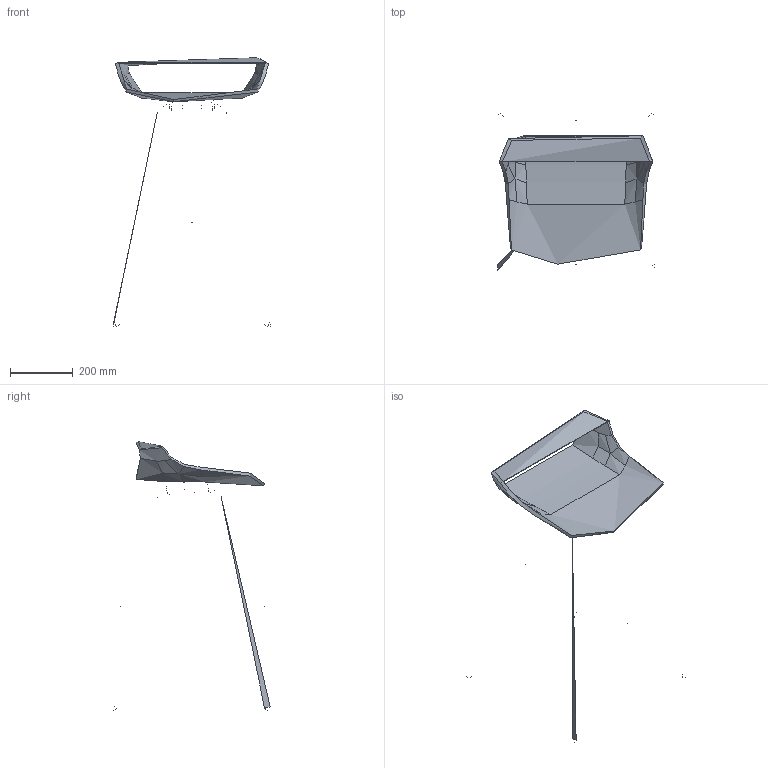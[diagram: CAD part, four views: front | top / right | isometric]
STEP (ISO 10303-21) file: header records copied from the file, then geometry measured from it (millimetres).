
FILE_DESCRIPTION(/* description */ (''),/* implementation_level */ '2;1');
FILE_NAME(/* name */ 'Lotus bar',/* time_stamp */ '2024-02-28T20:22:26+01:00',/* author */ (''),/* organization */ (''),/* preprocessor_version */ 'ST-DEVELOPER v16.5',/* originating_system */ 'Rhino 7.35',/* authorisation */ '');
FILE_SCHEMA (('CONFIG_CONTROL_DESIGN'));
Length unit declared in the file: millimetre
Products named in the file (1): Document
Bounding box: 502.45 x 498.55 x 856.45 mm (x, y, z)
Volume: 3233929.7 mm3; surface area: 854666.9 mm2
Topology: 2 solids, 18 shells, 80 faces, 208 edges, 131 vertices
Faces by surface type: bspline 60, cylinder 20
Full cylindrical faces by diameter (mm): 14 x4, 16 x4, 18 x12
Entity records: 13205 total; most frequent: CARTESIAN_POINT 11906, ORIENTED_EDGE 369, EDGE_CURVE 197, VERTEX_POINT 129, B_SPLINE_CURVE_WITH_KNOTS 121, ADVANCED_FACE 80, FACE_OUTER_BOUND 80, EDGE_LOOP 80
